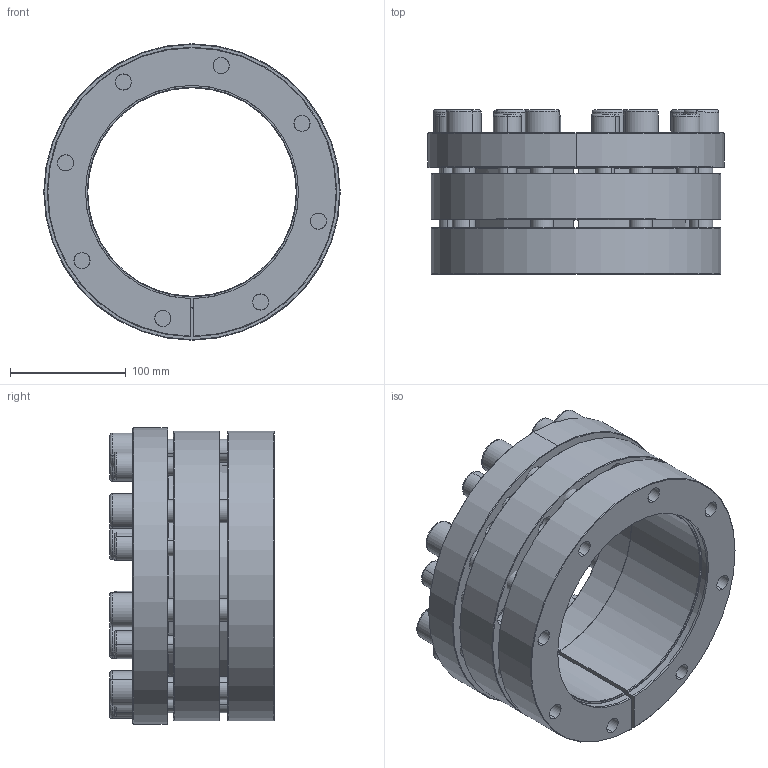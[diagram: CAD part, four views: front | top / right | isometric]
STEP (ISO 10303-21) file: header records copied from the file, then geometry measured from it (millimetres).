
FILE_DESCRIPTION (( 'STEP AP214' ), '1' );
FILE_NAME ('CONEX-P-180x250-P-001.step', '2015-11-30T21:13:47', ( '' ), ( '' ), 'SwSTEP 2.0', 'SolidWorks 2013', '' );
FILE_SCHEMA (( 'AUTOMOTIVE_DESIGN' ));
Length unit declared in the file: millimetre
Products named in the file (1): CONEX-P-180x250-P-001
Bounding box: 256 x 142 x 256 mm (x, y, z)
Volume: 2825197.9 mm3; surface area: 577115 mm2
Topology: 19 solids, 19 shells, 577 faces, 1334 edges, 796 vertices
Faces by surface type: plane 259, cylinder 162, cone 90, torus 66
Entity records: 22879 total; most frequent: DIRECTION 3050, CARTESIAN_POINT 2804, ORIENTED_EDGE 2604, EDGE_CURVE 1302, AXIS2_PLACEMENT_3D 1202, VERTEX_POINT 796, EDGE_LOOP 700, VECTOR 646
